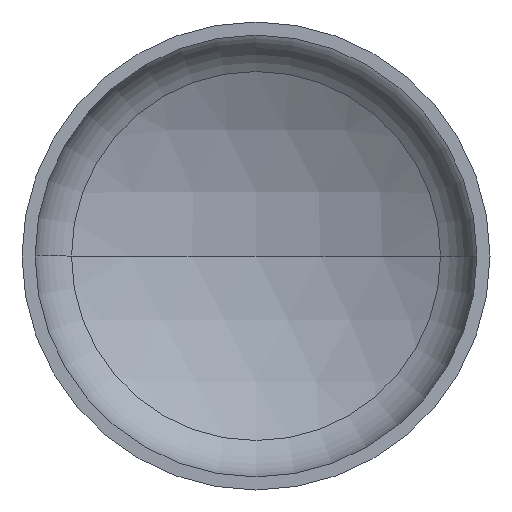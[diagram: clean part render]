
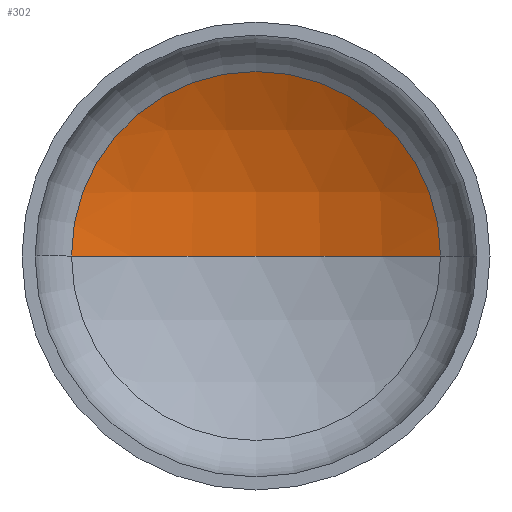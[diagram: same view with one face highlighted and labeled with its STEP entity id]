
A CAD part, front view. The second image highlights one B-rep face of the part: STEP entity #302.
In plain terms, the highlighted spherical face has radius 1200 mm.
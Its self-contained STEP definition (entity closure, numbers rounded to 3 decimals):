
#3 = DIRECTION ( 'NONE',  ( 1., 0., 0. ) ) ;
#10 = AXIS2_PLACEMENT_3D ( 'NONE', #405, #408, #124 ) ;
#17 = DIRECTION ( 'NONE',  ( -1., 0., 0. ) ) ;
#19 = DIRECTION ( 'NONE',  ( 0., 0., -1. ) ) ;
#24 = CARTESIAN_POINT ( 'NONE',  ( 0., -714.047, 0. ) ) ;
#27 = ORIENTED_EDGE ( 'NONE', *, *, #89, .F. ) ;
#28 = AXIS2_PLACEMENT_3D ( 'NONE', #269, #411, #290 ) ;
#30 = AXIS2_PLACEMENT_3D ( 'NONE', #24, #19, #17 ) ;
#33 = EDGE_LOOP ( 'NONE', ( #27, #154, #274 ) ) ;
#35 = AXIS2_PLACEMENT_3D ( 'NONE', #308, #247, #3 ) ;
#52 = VERTEX_POINT ( 'NONE', #303 ) ;
#76 = VERTEX_POINT ( 'NONE', #219 ) ;
#82 = VERTEX_POINT ( 'NONE', #315 ) ;
#87 = EDGE_CURVE ( 'NONE', #76, #82, #407, .T. ) ;
#88 = EDGE_CURVE ( 'NONE', #52, #76, #364, .T. ) ;
#89 = EDGE_CURVE ( 'NONE', #52, #82, #240, .T. ) ;
#124 = DIRECTION ( 'NONE',  ( -1., 0., 0. ) ) ;
#154 = ORIENTED_EDGE ( 'NONE', *, *, #88, .T. ) ;
#219 = CARTESIAN_POINT ( 'NONE',  ( 591.34, 330.135, 0. ) ) ;
#240 = CIRCLE ( 'NONE', #28, 1200. ) ;
#247 = DIRECTION ( 'NONE',  ( 0., -1., 0. ) ) ;
#269 = CARTESIAN_POINT ( 'NONE',  ( 0., -714.047, 0. ) ) ;
#274 = ORIENTED_EDGE ( 'NONE', *, *, #87, .T. ) ;
#290 = DIRECTION ( 'NONE',  ( 1., 0., 0. ) ) ;
#302 = ADVANCED_FACE ( 'NONE', ( #393 ), #342, .F. ) ;
#303 = CARTESIAN_POINT ( 'NONE',  ( 0., 485.953, 0. ) ) ;
#308 = CARTESIAN_POINT ( 'NONE',  ( 0., 330.135, 0. ) ) ;
#315 = CARTESIAN_POINT ( 'NONE',  ( -591.34, 330.135, 0. ) ) ;
#342 = SPHERICAL_SURFACE ( 'NONE', #10, 1200. ) ;
#364 = CIRCLE ( 'NONE', #30, 1200. ) ;
#393 = FACE_OUTER_BOUND ( 'NONE', #33, .T. ) ;
#405 = CARTESIAN_POINT ( 'NONE',  ( 0., -714.047, 0. ) ) ;
#407 = CIRCLE ( 'NONE', #35, 591.34 ) ;
#408 = DIRECTION ( 'NONE',  ( 0., 0., -1. ) ) ;
#411 = DIRECTION ( 'NONE',  ( 0., 0., 1. ) ) ;
